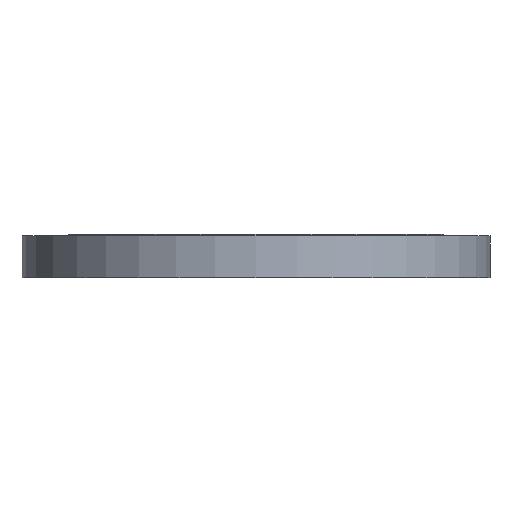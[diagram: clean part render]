
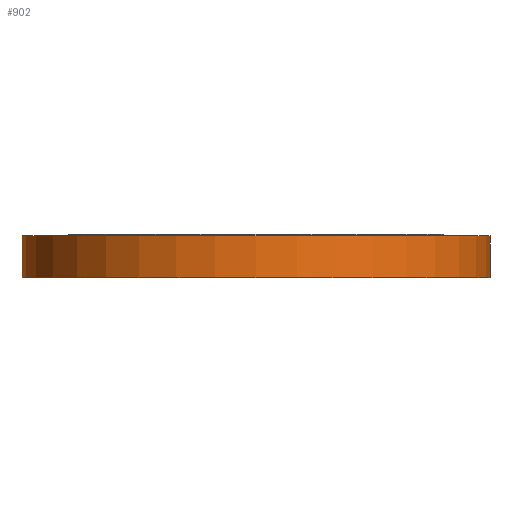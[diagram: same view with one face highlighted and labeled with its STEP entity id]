
A CAD part, front view. The second image highlights one B-rep face of the part: STEP entity #902.
In plain terms, the highlighted cylindrical face has radius 290 mm (diameter 580 mm), a partial arc.
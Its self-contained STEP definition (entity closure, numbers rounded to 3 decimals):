
#48 = CARTESIAN_POINT ( 'NONE',  ( 290., 0., -2. ) ) ;
#50 = CARTESIAN_POINT ( 'NONE',  ( 290., 0., -54. ) ) ;
#139 = VECTOR ( 'NONE', #706, 1000. ) ;
#184 = DIRECTION ( 'NONE',  ( -1., 0., 0. ) ) ;
#187 = DIRECTION ( 'NONE',  ( 0., 0., -1. ) ) ;
#188 = CARTESIAN_POINT ( 'NONE',  ( 0., 0., -54. ) ) ;
#295 = AXIS2_PLACEMENT_3D ( 'NONE', #619, #616, #615 ) ;
#374 = CIRCLE ( 'NONE', #295, 290. ) ;
#386 = EDGE_CURVE ( 'NONE', #1053, #1203, #846, .T. ) ;
#389 = CARTESIAN_POINT ( 'NONE',  ( -290., 0., -2. ) ) ;
#425 = CARTESIAN_POINT ( 'NONE',  ( -290., 0., -54. ) ) ;
#470 = DIRECTION ( 'NONE',  ( 1., 0., 0. ) ) ;
#471 = DIRECTION ( 'NONE',  ( 0., 0., 1. ) ) ;
#472 = CARTESIAN_POINT ( 'NONE',  ( 0., 0., -135. ) ) ;
#473 = CYLINDRICAL_SURFACE ( 'NONE', #641, 290. ) ;
#474 = FACE_OUTER_BOUND ( 'NONE', #1620, .T. ) ;
#548 = EDGE_CURVE ( 'NONE', #1579, #1582, #709, .T. ) ;
#615 = DIRECTION ( 'NONE',  ( -1., 0., 0. ) ) ;
#616 = DIRECTION ( 'NONE',  ( 0., 0., -1. ) ) ;
#619 = CARTESIAN_POINT ( 'NONE',  ( 0., 0., -2. ) ) ;
#625 = VECTOR ( 'NONE', #843, 1000. ) ;
#641 = AXIS2_PLACEMENT_3D ( 'NONE', #472, #471, #470 ) ;
#706 = DIRECTION ( 'NONE',  ( 0., 0., 1. ) ) ;
#708 = CARTESIAN_POINT ( 'NONE',  ( 290., 0., -135. ) ) ;
#709 = LINE ( 'NONE', #708, #139 ) ;
#747 = EDGE_CURVE ( 'NONE', #1582, #1203, #374, .T. ) ;
#843 = DIRECTION ( 'NONE',  ( 0., 0., 1. ) ) ;
#844 = CARTESIAN_POINT ( 'NONE',  ( -290., 0., -135. ) ) ;
#846 = LINE ( 'NONE', #844, #625 ) ;
#902 = ADVANCED_FACE ( 'NONE', ( #474 ), #473, .T. ) ;
#1053 = VERTEX_POINT ( 'NONE', #425 ) ;
#1203 = VERTEX_POINT ( 'NONE', #389 ) ;
#1274 = CIRCLE ( 'NONE', #1278, 290. ) ;
#1278 = AXIS2_PLACEMENT_3D ( 'NONE', #188, #187, #184 ) ;
#1480 = ORIENTED_EDGE ( 'NONE', *, *, #386, .F. ) ;
#1481 = ORIENTED_EDGE ( 'NONE', *, *, #1496, .F. ) ;
#1482 = ORIENTED_EDGE ( 'NONE', *, *, #548, .T. ) ;
#1483 = ORIENTED_EDGE ( 'NONE', *, *, #747, .T. ) ;
#1496 = EDGE_CURVE ( 'NONE', #1579, #1053, #1274, .T. ) ;
#1579 = VERTEX_POINT ( 'NONE', #50 ) ;
#1582 = VERTEX_POINT ( 'NONE', #48 ) ;
#1620 = EDGE_LOOP ( 'NONE', ( #1480, #1481, #1482, #1483 ) ) ;
